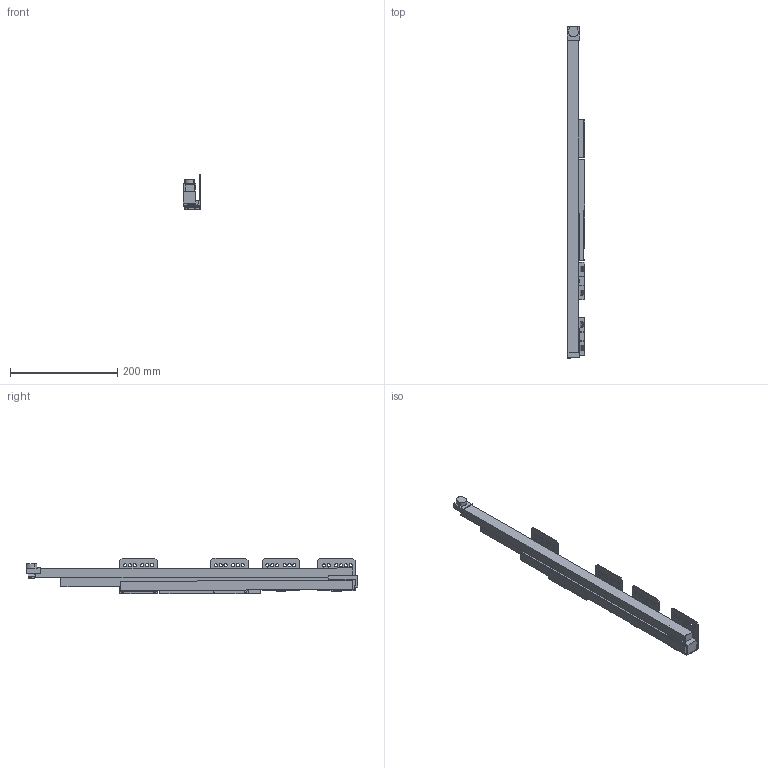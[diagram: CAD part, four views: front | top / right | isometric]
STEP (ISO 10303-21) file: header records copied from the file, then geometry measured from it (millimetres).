
FILE_DESCRIPTION (( 'STEP AP214' ), '1' );
FILE_NAME ('_IMOS Dynamic-XP VA 80kg NL600 RE Tipmatic.step', '2010-07-08T13:28:11', ( 'grass' ), ( '' ), 'SwSTEP 2.0', 'SolidWorks 2010', '' );
FILE_SCHEMA (( 'AUTOMOTIVE_DESIGN' ));
Length unit declared in the file: millimetre
Products named in the file (1): _IMOS Dynamic-XP VA 80kg NL600 RE Tipmatic
Bounding box: 33.14 x 618.02 x 66.67 mm (x, y, z)
Volume: 510955.5 mm3; surface area: 204248.6 mm2
Topology: 10 solids, 10 shells, 280 faces, 772 edges, 514 vertices
Faces by surface type: plane 193, cylinder 87
Entity records: 9171 total; most frequent: CARTESIAN_POINT 1567, ORIENTED_EDGE 1544, DIRECTION 1510, EDGE_CURVE 772, LINE 596, VECTOR 596, VERTEX_POINT 514, AXIS2_PLACEMENT_3D 457
